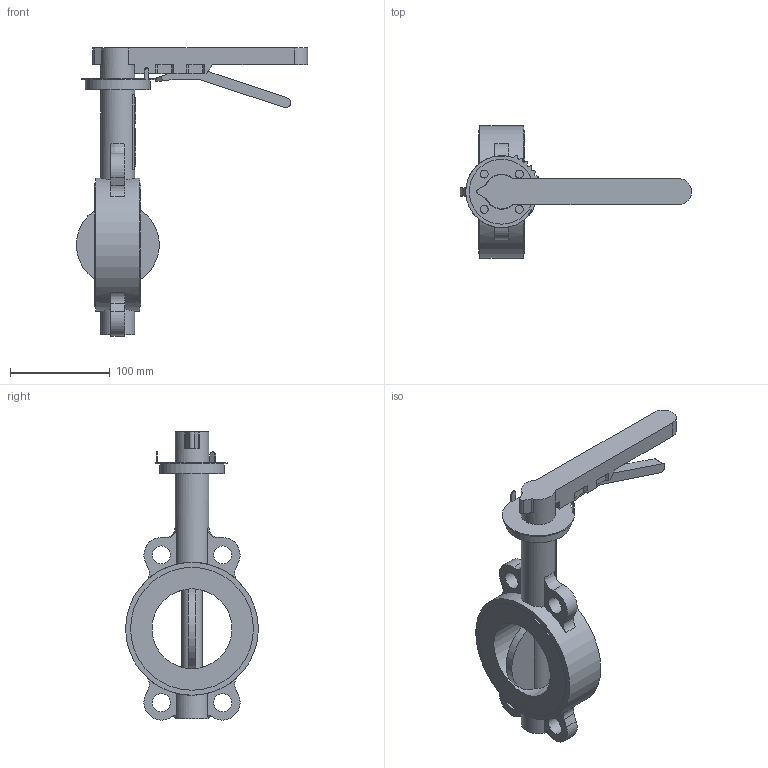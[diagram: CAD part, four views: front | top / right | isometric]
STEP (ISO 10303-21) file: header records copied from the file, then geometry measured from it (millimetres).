
FILE_DESCRIPTION(('STEP AP203'), '1');
FILE_NAME('青蜮铕 015WDN80', '', ('UNSPECIFIED'), ('UNSPECIFIED'), 'ASCON STEP Converter 1.6', 'ASCON Math Kernel', '');
FILE_SCHEMA(('CONFIG_CONTROL_DESIGN'));
Length unit declared in the file: millimetre
Bounding box: 231.35 x 133 x 288.38 mm (x, y, z)
Volume: 138340.1 mm3; surface area: 126340.1 mm2
Topology: 1 solids, 2 shells, 742 faces, 2186 edges, 1412 vertices
Faces by surface type: cylinder 507, plane 231, bspline 4
Full cylindrical faces by diameter (mm): 8 x4, 12.6 x1, 18 x4, 34 x3, 35 x1, 65 x1, 80 x1, 123 x2, 133 x1
Entity records: 33007 total; most frequent: CARTESIAN_POINT 6367, DIRECTION 4668, ORIENTED_EDGE 4275, EDGE_CURVE 2169, AXIS2_PLACEMENT_3D 1803, VERTEX_POINT 1412, CIRCLE 1064, LINE 1062
